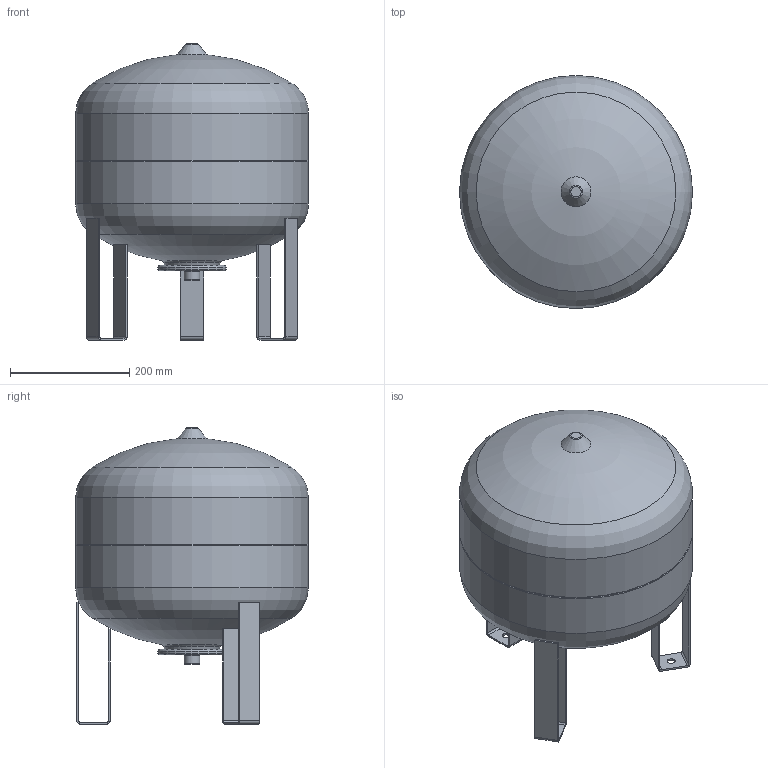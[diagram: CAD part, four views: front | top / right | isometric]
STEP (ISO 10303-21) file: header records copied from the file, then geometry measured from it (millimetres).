
FILE_DESCRIPTION(('STEP AP242'), '1');
FILE_NAME('VT.A.R.050035', '', ('UNSPECIFIED'), ('UNSPECIFIED'), 'C3D Converter', 'C3D Toolkit', '');
FILE_SCHEMA(('AP242_MANAGED_MODEL_BASED_3D_ENGINEERING_MIM_LF { 1 0 10303 442 1 1 4 }'));
Length unit declared in the file: millimetre
Bounding box: 390 x 390 x 496.3 mm (x, y, z)
Volume: 33872387.9 mm3; surface area: 641296.5 mm2
Topology: 4 solids, 4 shells, 83 faces, 221 edges, 152 vertices
Faces by surface type: plane 38, cylinder 21, torus 15, cone 7, sphere 2
Full cylindrical faces by diameter (mm): 13 x3, 20 x1, 26 x1, 78 x1, 114 x1, 390 x2
Entity records: 2556 total; most frequent: DIRECTION 460, CARTESIAN_POINT 424, ORIENTED_EDGE 376, AXIS2_PLACEMENT_3D 188, EDGE_CURVE 188, VERTEX_POINT 152, EDGE_LOOP 128, FACE_BOUND 122
